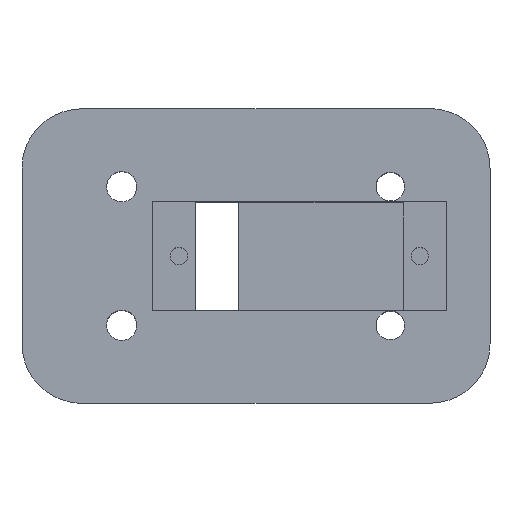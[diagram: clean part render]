
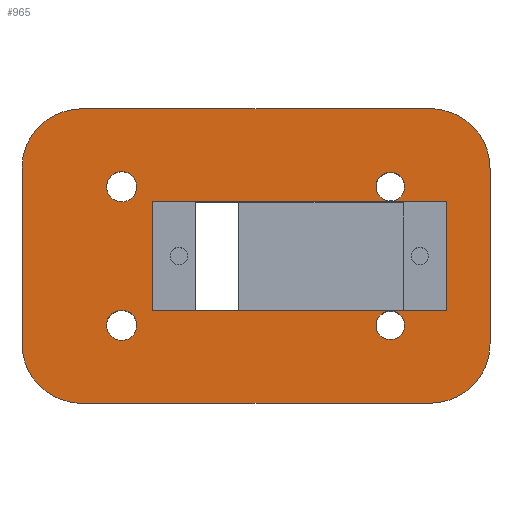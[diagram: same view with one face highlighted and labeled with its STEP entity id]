
A CAD part, top view. The second image highlights one B-rep face of the part: STEP entity #965.
In plain terms, the highlighted planar face has unit normal (0, 0, 1).
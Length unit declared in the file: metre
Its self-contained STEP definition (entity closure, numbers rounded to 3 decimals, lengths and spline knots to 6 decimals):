
#43=PLANE('',#1052);
#46=B_SPLINE_CURVE_WITH_KNOTS('',3,(#1321,#1322,#1323,#1324,#1325,#1326,
#1327),.UNSPECIFIED.,.F.,.F.,(4,1,1,1,4),(336.268194,358.408172,
380.548149,402.688127,424.828104),.UNSPECIFIED.);
#50=B_SPLINE_CURVE_WITH_KNOTS('',3,(#1370,#1371,#1372,#1373,#1374,#1375,
#1376),.UNSPECIFIED.,.F.,.F.,(4,1,1,1,4),(295.171896,317.311873,
339.451851,361.591828,383.731806),.UNSPECIFIED.);
#54=B_SPLINE_CURVE_WITH_KNOTS('',3,(#1409,#1410,#1411,#1412,#1413,#1414,
#1415),.UNSPECIFIED.,.F.,.F.,(4,1,1,1,4),(336.268194,358.408172,
380.548149,402.688127,424.828104),.UNSPECIFIED.);
#58=B_SPLINE_CURVE_WITH_KNOTS('',3,(#1484,#1485,#1486,#1487,#1488,#1489,
#1490),.UNSPECIFIED.,.F.,.F.,(4,1,1,1,4),(295.171896,317.311873,
339.451851,361.591828,383.731806),.UNSPECIFIED.);
#64=LINE('',#1338,#158);
#69=LINE('',#1353,#163);
#97=LINE('',#1498,#191);
#110=LINE('',#1537,#204);
#117=LINE('',#1552,#211);
#130=LINE('',#1579,#224);
#132=LINE('',#1584,#226);
#137=LINE('',#1592,#231);
#143=LINE('',#1599,#237);
#144=LINE('',#1612,#238);
#158=VECTOR('',#1067,1.);
#163=VECTOR('',#1074,1.);
#191=VECTOR('',#1138,1.);
#204=VECTOR('',#1179,1.);
#211=VECTOR('',#1190,1.);
#224=VECTOR('',#1209,1.);
#226=VECTOR('',#1213,1.);
#231=VECTOR('',#1222,1.);
#237=VECTOR('',#1230,1.);
#238=VECTOR('',#1247,1.);
#494=ORIENTED_EDGE('',*,*,#612,.T.);
#495=ORIENTED_EDGE('',*,*,#623,.T.);
#496=ORIENTED_EDGE('',*,*,#590,.T.);
#497=ORIENTED_EDGE('',*,*,#617,.T.);
#498=ORIENTED_EDGE('',*,*,#610,.T.);
#499=ORIENTED_EDGE('',*,*,#597,.T.);
#500=ORIENTED_EDGE('',*,*,#627,.T.);
#501=ORIENTED_EDGE('',*,*,#645,.T.);
#502=ORIENTED_EDGE('',*,*,#628,.F.);
#503=ORIENTED_EDGE('',*,*,#541,.F.);
#504=ORIENTED_EDGE('',*,*,#573,.F.);
#505=ORIENTED_EDGE('',*,*,#570,.F.);
#506=ORIENTED_EDGE('',*,*,#521,.F.);
#507=ORIENTED_EDGE('',*,*,#517,.F.);
#508=ORIENTED_EDGE('',*,*,#527,.F.);
#509=ORIENTED_EDGE('',*,*,#532,.F.);
#510=ORIENTED_EDGE('',*,*,#625,.T.);
#511=ORIENTED_EDGE('',*,*,#644,.T.);
#517=EDGE_CURVE('',#651,#652,#46,.F.);
#521=EDGE_CURVE('',#652,#654,#64,.F.);
#527=EDGE_CURVE('',#658,#651,#69,.F.);
#532=EDGE_CURVE('',#662,#658,#50,.F.);
#541=EDGE_CURVE('',#669,#670,#54,.F.);
#570=EDGE_CURVE('',#654,#691,#58,.F.);
#573=EDGE_CURVE('',#691,#669,#97,.T.);
#590=EDGE_CURVE('',#704,#705,#110,.T.);
#597=EDGE_CURVE('',#710,#711,#117,.F.);
#610=EDGE_CURVE('',#719,#710,#130,.T.);
#612=EDGE_CURVE('',#711,#722,#132,.F.);
#617=EDGE_CURVE('',#705,#719,#137,.T.);
#623=EDGE_CURVE('',#722,#704,#143,.F.);
#625=EDGE_CURVE('',#725,#725,#751,.T.);
#627=EDGE_CURVE('',#727,#727,#753,.T.);
#628=EDGE_CURVE('',#670,#662,#144,.T.);
#644=EDGE_CURVE('',#736,#736,#760,.T.);
#645=EDGE_CURVE('',#737,#737,#761,.T.);
#651=VERTEX_POINT('',#1328);
#652=VERTEX_POINT('',#1329);
#654=VERTEX_POINT('',#1339);
#658=VERTEX_POINT('',#1352);
#662=VERTEX_POINT('',#1377);
#669=VERTEX_POINT('',#1416);
#670=VERTEX_POINT('',#1417);
#691=VERTEX_POINT('',#1491);
#704=VERTEX_POINT('',#1538);
#705=VERTEX_POINT('',#1539);
#710=VERTEX_POINT('',#1553);
#711=VERTEX_POINT('',#1554);
#719=VERTEX_POINT('',#1575);
#722=VERTEX_POINT('',#1583);
#725=VERTEX_POINT('',#1605);
#727=VERTEX_POINT('',#1610);
#736=VERTEX_POINT('',#1647);
#737=VERTEX_POINT('',#1650);
#751=CIRCLE('',#1028,0.00175);
#753=CIRCLE('',#1031,0.00175);
#760=CIRCLE('',#1049,0.00165);
#761=CIRCLE('',#1051,0.00165);
#824=EDGE_LOOP('',(#494,#495,#496,#497,#498,#499));
#825=EDGE_LOOP('',(#500));
#826=EDGE_LOOP('',(#501));
#827=EDGE_LOOP('',(#502,#503,#504,#505,#506,#507,#508,#509));
#828=EDGE_LOOP('',(#510));
#829=EDGE_LOOP('',(#511));
#892=FACE_BOUND('',#824,.T.);
#893=FACE_BOUND('',#825,.T.);
#894=FACE_BOUND('',#826,.T.);
#895=FACE_BOUND('',#827,.T.);
#896=FACE_BOUND('',#828,.T.);
#897=FACE_BOUND('',#829,.T.);
#965=ADVANCED_FACE('',(#892,#893,#894,#895,#896,#897),#43,.T.);
#1028=AXIS2_PLACEMENT_3D('',#1604,#1237,#1238);
#1031=AXIS2_PLACEMENT_3D('',#1609,#1243,#1244);
#1049=AXIS2_PLACEMENT_3D('',#1646,#1289,#1290);
#1051=AXIS2_PLACEMENT_3D('',#1649,#1293,#1294);
#1052=AXIS2_PLACEMENT_3D('',#1651,#1295,#1296);
#1067=DIRECTION('',(1.,0.,0.));
#1074=DIRECTION('',(0.,1.,0.));
#1138=DIRECTION('',(0.,1.,0.));
#1179=DIRECTION('',(0.,1.,0.));
#1190=DIRECTION('',(0.,1.,0.));
#1209=DIRECTION('',(1.,0.,0.));
#1213=DIRECTION('',(1.,0.,0.));
#1222=DIRECTION('',(1.,0.,0.));
#1230=DIRECTION('',(1.,0.,0.));
#1237=DIRECTION('',(0.,0.,-1.));
#1238=DIRECTION('',(-1.,0.,0.));
#1243=DIRECTION('',(0.,0.,-1.));
#1244=DIRECTION('',(-1.,0.,0.));
#1247=DIRECTION('',(1.,0.,0.));
#1289=DIRECTION('',(0.,0.,-1.));
#1290=DIRECTION('',(-1.,0.,0.));
#1293=DIRECTION('',(0.,0.,-1.));
#1294=DIRECTION('',(-1.,0.,0.));
#1295=DIRECTION('',(0.,0.,1.));
#1296=DIRECTION('',(1.,0.,0.));
#1321=CARTESIAN_POINT('',(0.041484,-0.0025,0.032));
#1322=CARTESIAN_POINT('',(0.042321,-0.0025,0.032));
#1323=CARTESIAN_POINT('',(0.044117,-0.002207,0.032));
#1324=CARTESIAN_POINT('',(0.046604,-0.000645,0.032));
#1325=CARTESIAN_POINT('',(0.0482,0.001787,0.032));
#1326=CARTESIAN_POINT('',(0.0485,0.003545,0.032));
#1327=CARTESIAN_POINT('',(0.0485,0.004364,0.032));
#1328=CARTESIAN_POINT('',(0.0485,0.004364,0.032));
#1329=CARTESIAN_POINT('',(0.041484,-0.0025,0.032));
#1338=CARTESIAN_POINT('',(0.043,-0.0025,0.032));
#1339=CARTESIAN_POINT('',(0.001516,-0.0025,0.032));
#1352=CARTESIAN_POINT('',(0.0485,0.024636,0.032));
#1353=CARTESIAN_POINT('',(0.0485,0.029,0.032));
#1370=CARTESIAN_POINT('',(0.0485,0.024636,0.032));
#1371=CARTESIAN_POINT('',(0.0485,0.025455,0.032));
#1372=CARTESIAN_POINT('',(0.0482,0.027213,0.032));
#1373=CARTESIAN_POINT('',(0.046604,0.029645,0.032));
#1374=CARTESIAN_POINT('',(0.044117,0.031207,0.032));
#1375=CARTESIAN_POINT('',(0.042321,0.0315,0.032));
#1376=CARTESIAN_POINT('',(0.041484,0.0315,0.032));
#1377=CARTESIAN_POINT('',(0.041484,0.0315,0.032));
#1409=CARTESIAN_POINT('',(0.001516,0.0315,0.032));
#1410=CARTESIAN_POINT('',(0.000679,0.0315,0.032));
#1411=CARTESIAN_POINT('',(-0.001117,0.031207,0.032));
#1412=CARTESIAN_POINT('',(-0.003604,0.029645,0.032));
#1413=CARTESIAN_POINT('',(-0.0052,0.027213,0.032));
#1414=CARTESIAN_POINT('',(-0.0055,0.025455,0.032));
#1415=CARTESIAN_POINT('',(-0.0055,0.024636,0.032));
#1416=CARTESIAN_POINT('',(-0.0055,0.024636,0.032));
#1417=CARTESIAN_POINT('',(0.001516,0.0315,0.032));
#1484=CARTESIAN_POINT('',(-0.0055,0.004364,0.032));
#1485=CARTESIAN_POINT('',(-0.0055,0.003545,0.032));
#1486=CARTESIAN_POINT('',(-0.0052,0.001787,0.032));
#1487=CARTESIAN_POINT('',(-0.003604,-0.000645,0.032));
#1488=CARTESIAN_POINT('',(-0.001117,-0.002207,0.032));
#1489=CARTESIAN_POINT('',(0.000679,-0.0025,0.032));
#1490=CARTESIAN_POINT('',(0.001516,-0.0025,0.032));
#1491=CARTESIAN_POINT('',(-0.0055,0.004364,0.032));
#1498=CARTESIAN_POINT('',(-0.0055,0.,0.032));
#1537=CARTESIAN_POINT('',(0.0095,0.0145,0.032));
#1538=CARTESIAN_POINT('',(0.0095,0.00825,0.032));
#1539=CARTESIAN_POINT('',(0.0095,0.02075,0.032));
#1552=CARTESIAN_POINT('',(0.0435,0.0145,0.032));
#1553=CARTESIAN_POINT('',(0.0435,0.02075,0.032));
#1554=CARTESIAN_POINT('',(0.0435,0.00825,0.032));
#1575=CARTESIAN_POINT('',(0.037,0.02075,0.032));
#1579=CARTESIAN_POINT('',(0.0215,0.02075,0.032));
#1583=CARTESIAN_POINT('',(0.037,0.00825,0.032));
#1584=CARTESIAN_POINT('',(0.0215,0.00825,0.032));
#1592=CARTESIAN_POINT('',(0.0215,0.02075,0.032));
#1599=CARTESIAN_POINT('',(0.0215,0.00825,0.032));
#1604=CARTESIAN_POINT('',(0.006,0.0225,0.032));
#1605=CARTESIAN_POINT('',(0.00425,0.0225,0.032));
#1609=CARTESIAN_POINT('',(0.006,0.0065,0.032));
#1610=CARTESIAN_POINT('',(0.00425,0.0065,0.032));
#1612=CARTESIAN_POINT('',(0.,0.0315,0.032));
#1646=CARTESIAN_POINT('',(0.037,0.0225,0.032));
#1647=CARTESIAN_POINT('',(0.03535,0.0225,0.032));
#1649=CARTESIAN_POINT('',(0.037,0.0065,0.032));
#1650=CARTESIAN_POINT('',(0.03535,0.0065,0.032));
#1651=CARTESIAN_POINT('',(0.008,0.023,0.032));
